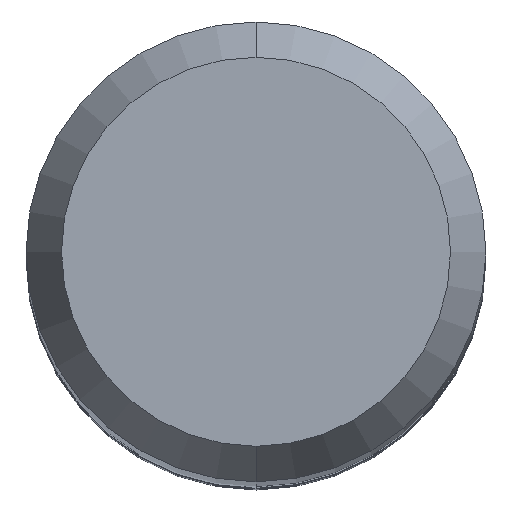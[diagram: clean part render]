
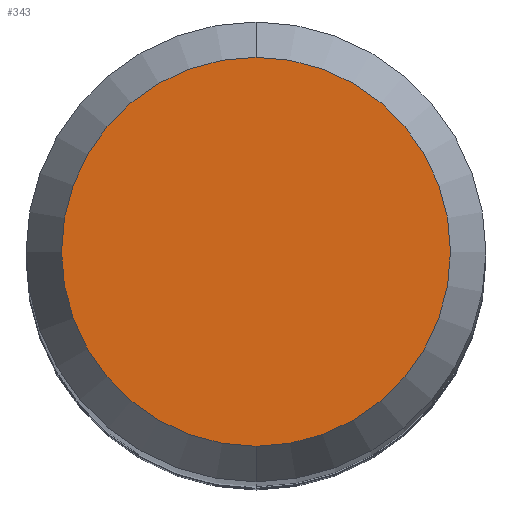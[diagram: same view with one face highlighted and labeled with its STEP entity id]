
A CAD part, top view. The second image highlights one B-rep face of the part: STEP entity #343.
In plain terms, the highlighted planar face has unit normal (0, 0, 1).
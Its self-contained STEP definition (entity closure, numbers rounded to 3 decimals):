
#343=ADVANCED_FACE('',(#762),#763,.T.);
#361=VERTEX_POINT('',#784);
#405=EDGE_CURVE('',#527,#361,#835,.T.);
#527=VERTEX_POINT('',#966);
#585=EDGE_CURVE('',#361,#527,#1030,.T.);
#762=FACE_OUTER_BOUND('',#1348,.T.);
#763=PLANE('',#1349);
#784=CARTESIAN_POINT('',(0.,-2.538,0.0));
#835=CIRCLE('',#1466,2.538);
#966=CARTESIAN_POINT('',(0.0,2.538,0.0));
#1030=CIRCLE('',#1815,2.538);
#1348=EDGE_LOOP('',(#1987,#1988));
#1349=AXIS2_PLACEMENT_3D('',#1989,#1990,#1991);
#1466=AXIS2_PLACEMENT_3D('',#2090,#2091,#2092);
#1815=AXIS2_PLACEMENT_3D('',#2303,#2304,#2305);
#1987=ORIENTED_EDGE('',*,*,#405,.F.);
#1988=ORIENTED_EDGE('',*,*,#585,.F.);
#1989=CARTESIAN_POINT('',(0.0,1.269,0.0));
#1990=DIRECTION('',(-0.0,0.0,1.0));
#1991=DIRECTION('',(0.0,-1.0,0.0));
#2090=CARTESIAN_POINT('',(0.0,0.0,0.0));
#2091=DIRECTION('',(0.0,0.0,-1.0));
#2092=DIRECTION('',(0.0,1.0,0.0));
#2303=CARTESIAN_POINT('',(0.0,0.0,0.0));
#2304=DIRECTION('',(0.0,0.0,-1.0));
#2305=DIRECTION('',(0.0,1.0,0.0));
